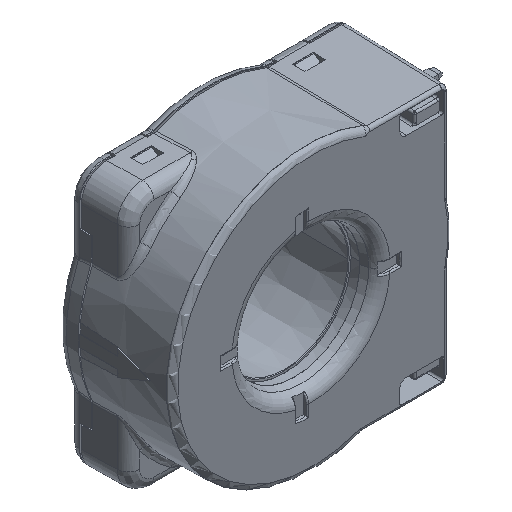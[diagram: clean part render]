
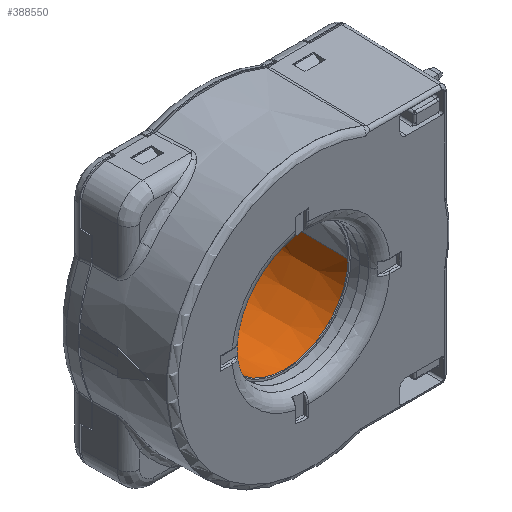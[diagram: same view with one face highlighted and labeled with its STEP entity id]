
A CAD part, isometric view. The second image highlights one B-rep face of the part: STEP entity #388550.
In plain terms, the highlighted conical face has half-angle 0.5 degrees and reference radius 10.05 mm.
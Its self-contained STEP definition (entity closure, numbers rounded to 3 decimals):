
#316940=CARTESIAN_POINT('',(32.764,33.111,
25.302));
#316950=VERTEX_POINT('',#316940);
#316980=CARTESIAN_POINT('',(42.921,33.111,
25.302));
#316990=DIRECTION('',(0.,-1.,0.));
#317000=DIRECTION('',(-1.,0.,0.));
#317010=AXIS2_PLACEMENT_3D('',#316980,#316990,#317000);
#317020=CIRCLE('',#317010,10.157);
#317030=CARTESIAN_POINT('',(53.078,33.111,
25.302));
#317040=VERTEX_POINT('',#317030);
#317230=CARTESIAN_POINT('',(32.871,20.85,
25.302));
#317240=DIRECTION('',(-0.009,1.,
0.));
#317250=VECTOR('',#317240,1151.66);
#317260=LINE('',#317230,#317250);
#317270=CARTESIAN_POINT('',(32.872,20.75,
25.302));
#317280=VERTEX_POINT('',#317270);
#317290=EDGE_CURVE('',#317280,#316950,#317260,.T.);
#317310=CARTESIAN_POINT('',(42.921,20.75,
25.302));
#317320=DIRECTION('',(0.,-1.,0.));
#317330=DIRECTION('',(-1.,0.,0.));
#317340=AXIS2_PLACEMENT_3D('',#317310,#317320,#317330);
#317350=CIRCLE('',#317340,10.049);
#317360=CARTESIAN_POINT('',(52.971,20.75,
25.302));
#317370=VERTEX_POINT('',#317360);
#317400=CARTESIAN_POINT('',(52.971,20.85,
25.302));
#317410=DIRECTION('',(0.009,1.,
0.));
#317420=VECTOR('',#317410,1151.66);
#317430=LINE('',#317400,#317420);
#317440=EDGE_CURVE('',#317370,#317040,#317430,.T.);
#388350=EDGE_CURVE('',#317280,#317370,#317350,.T.);
#388430=CARTESIAN_POINT('',(42.921,20.85,
25.302));
#388440=DIRECTION('',(0.,1.,0.));
#388450=DIRECTION('',(1.,0.,0.));
#388460=AXIS2_PLACEMENT_3D('',#388430,#388440,#388450);
#388470=CONICAL_SURFACE('',#388460,10.05,0.009);
#388480=ORIENTED_EDGE('',*,*,#388350,.T.);
#388490=ORIENTED_EDGE('',*,*,#317290,.F.);
#388500=EDGE_CURVE('',#316950,#317040,#317020,.T.);
#388510=ORIENTED_EDGE('',*,*,#388500,.F.);
#388520=ORIENTED_EDGE('',*,*,#317440,.T.);
#388530=EDGE_LOOP('',(#388520,#388510,#388490,#388480));
#388540=FACE_OUTER_BOUND('',#388530,.T.);
#388550=ADVANCED_FACE('',(#388540),#388470,.F.);
